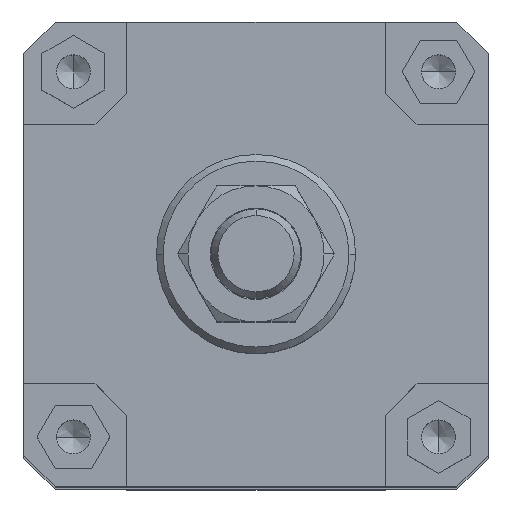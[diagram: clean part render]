
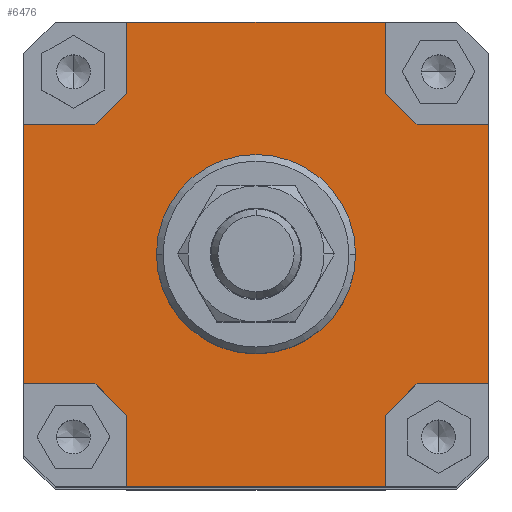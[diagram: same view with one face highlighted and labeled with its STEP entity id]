
A CAD part, top view. The second image highlights one B-rep face of the part: STEP entity #6476.
In plain terms, the highlighted planar face has unit normal (0, 0, 1).
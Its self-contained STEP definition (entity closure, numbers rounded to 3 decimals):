
#2320=CARTESIAN_POINT('',(-30.0,0.,280.0));
#2321=VERTEX_POINT('',#2320);
#2330=CARTESIAN_POINT('',(30.0,0.,280.0));
#2331=VERTEX_POINT('',#2330);
#2332=CARTESIAN_POINT('',(0.0,0.0,280.0));
#2333=DIRECTION('',(0.0,0.0,-1.0));
#2334=DIRECTION('',(-1.0,0.0,0.0));
#2335=AXIS2_PLACEMENT_3D('',#2332,#2333,#2334);
#2336=CIRCLE('',#2335,30.0);
#2337=EDGE_CURVE('',#2331,#2321,#2336,.T.);
#2557=CARTESIAN_POINT('',(0.0,0.0,280.0));
#2558=DIRECTION('',(0.0,0.0,-1.0));
#2559=DIRECTION('',(-1.0,0.0,0.0));
#2560=AXIS2_PLACEMENT_3D('',#2557,#2558,#2559);
#2561=CIRCLE('',#2560,30.0);
#2562=EDGE_CURVE('',#2321,#2331,#2561,.T.);
#2641=CARTESIAN_POINT('',(-39.,70.,280.0));
#2642=VERTEX_POINT('',#2641);
#2649=CARTESIAN_POINT('',(39.,70.,280.0));
#2650=VERTEX_POINT('',#2649);
#2651=CARTESIAN_POINT('',(-39.,70.,280.0));
#2652=DIRECTION('',(1.0,0.0,0.0));
#2653=VECTOR('',#2652,78.);
#2654=LINE('',#2651,#2653);
#2655=EDGE_CURVE('',#2642,#2650,#2654,.T.);
#3100=CARTESIAN_POINT('',(70.,39.,280.0));
#3101=VERTEX_POINT('',#3100);
#3108=CARTESIAN_POINT('',(70.,-39.0,280.0));
#3109=VERTEX_POINT('',#3108);
#3110=CARTESIAN_POINT('',(70.,39.,280.0));
#3111=DIRECTION('',(0.0,-1.0,0.0));
#3112=VECTOR('',#3111,78.);
#3113=LINE('',#3110,#3112);
#3114=EDGE_CURVE('',#3101,#3109,#3113,.T.);
#3181=CARTESIAN_POINT('',(-39.,-48.5,280.0));
#3182=VERTEX_POINT('',#3181);
#3189=CARTESIAN_POINT('',(-48.5,-39.,280.0));
#3190=VERTEX_POINT('',#3189);
#3191=CARTESIAN_POINT('',(-39.,-48.5,280.0));
#3192=DIRECTION('',(-0.707,0.707,0.0));
#3193=VECTOR('',#3192,13.435);
#3194=LINE('',#3191,#3193);
#3195=EDGE_CURVE('',#3182,#3190,#3194,.T.);
#3309=CARTESIAN_POINT('',(-70.,-39.,280.0));
#3310=VERTEX_POINT('',#3309);
#3311=CARTESIAN_POINT('',(-70.,-39.,280.0));
#3312=DIRECTION('',(1.0,0.0,0.0));
#3313=VECTOR('',#3312,21.5);
#3314=LINE('',#3311,#3313);
#3315=EDGE_CURVE('',#3310,#3190,#3314,.T.);
#3342=CARTESIAN_POINT('',(48.5,-39.,280.0));
#3343=VERTEX_POINT('',#3342);
#3350=CARTESIAN_POINT('',(39.,-48.5,280.0));
#3351=VERTEX_POINT('',#3350);
#3352=CARTESIAN_POINT('',(48.5,-39.,280.0));
#3353=DIRECTION('',(-0.707,-0.707,0.0));
#3354=VECTOR('',#3353,13.435);
#3355=LINE('',#3352,#3354);
#3356=EDGE_CURVE('',#3343,#3351,#3355,.T.);
#3454=CARTESIAN_POINT('',(39.,-70.,280.0));
#3455=VERTEX_POINT('',#3454);
#3456=CARTESIAN_POINT('',(39.,-70.,280.0));
#3457=DIRECTION('',(0.0,1.0,0.0));
#3458=VECTOR('',#3457,21.5);
#3459=LINE('',#3456,#3458);
#3460=EDGE_CURVE('',#3455,#3351,#3459,.T.);
#3487=CARTESIAN_POINT('',(39.,48.5,280.0));
#3488=VERTEX_POINT('',#3487);
#3495=CARTESIAN_POINT('',(48.5,39.,280.0));
#3496=VERTEX_POINT('',#3495);
#3497=CARTESIAN_POINT('',(39.,48.5,280.0));
#3498=DIRECTION('',(0.707,-0.707,0.0));
#3499=VECTOR('',#3498,13.435);
#3500=LINE('',#3497,#3499);
#3501=EDGE_CURVE('',#3488,#3496,#3500,.T.);
#3592=CARTESIAN_POINT('',(70.,39.,280.0));
#3593=DIRECTION('',(-1.0,0.0,0.0));
#3594=VECTOR('',#3593,21.5);
#3595=LINE('',#3592,#3594);
#3596=EDGE_CURVE('',#3101,#3496,#3595,.T.);
#3609=CARTESIAN_POINT('',(-48.5,39.,280.0));
#3610=VERTEX_POINT('',#3609);
#3617=CARTESIAN_POINT('',(-39.,48.5,280.0));
#3618=VERTEX_POINT('',#3617);
#3619=CARTESIAN_POINT('',(-48.5,39.,280.0));
#3620=DIRECTION('',(0.707,0.707,0.0));
#3621=VECTOR('',#3620,13.435);
#3622=LINE('',#3619,#3621);
#3623=EDGE_CURVE('',#3610,#3618,#3622,.T.);
#3640=CARTESIAN_POINT('',(-39.,70.,280.0));
#3641=DIRECTION('',(0.0,-1.0,0.0));
#3642=VECTOR('',#3641,21.5);
#3643=LINE('',#3640,#3642);
#3644=EDGE_CURVE('',#2642,#3618,#3643,.T.);
#4674=CARTESIAN_POINT('',(-70.,39.0,280.0));
#4675=VERTEX_POINT('',#4674);
#4676=CARTESIAN_POINT('',(-70.,-39.,280.0));
#4677=DIRECTION('',(0.0,1.0,0.0));
#4678=VECTOR('',#4677,78.0);
#4679=LINE('',#4676,#4678);
#4680=EDGE_CURVE('',#3310,#4675,#4679,.T.);
#6070=CARTESIAN_POINT('',(-48.5,39.,280.0));
#6071=DIRECTION('',(-1.0,0.0,0.0));
#6072=VECTOR('',#6071,21.5);
#6073=LINE('',#6070,#6072);
#6074=EDGE_CURVE('',#3610,#4675,#6073,.T.);
#6231=CARTESIAN_POINT('',(39.,48.5,280.0));
#6232=DIRECTION('',(0.0,1.0,0.0));
#6233=VECTOR('',#6232,21.5);
#6234=LINE('',#6231,#6233);
#6235=EDGE_CURVE('',#3488,#2650,#6234,.T.);
#6392=CARTESIAN_POINT('',(48.5,-39.,280.0));
#6393=DIRECTION('',(1.0,0.0,0.0));
#6394=VECTOR('',#6393,21.5);
#6395=LINE('',#6392,#6394);
#6396=EDGE_CURVE('',#3343,#3109,#6395,.T.);
#6437=CARTESIAN_POINT('',(0.,0.,280.0));
#6438=DIRECTION('',(0.0,0.0,1.0));
#6439=DIRECTION('',(1.0,0.0,0.0));
#6440=AXIS2_PLACEMENT_3D('',#6437,#6438,#6439);
#6441=PLANE('',#6440);
#6442=ORIENTED_EDGE('',*,*,#3644,.T.);
#6443=ORIENTED_EDGE('',*,*,#3623,.F.);
#6444=ORIENTED_EDGE('',*,*,#6074,.T.);
#6445=ORIENTED_EDGE('',*,*,#4680,.F.);
#6446=ORIENTED_EDGE('',*,*,#3315,.T.);
#6447=ORIENTED_EDGE('',*,*,#3195,.F.);
#6448=CARTESIAN_POINT('',(-39.,-70.,280.0));
#6449=VERTEX_POINT('',#6448);
#6450=CARTESIAN_POINT('',(-39.,-48.5,280.0));
#6451=DIRECTION('',(0.0,-1.0,0.0));
#6452=VECTOR('',#6451,21.5);
#6453=LINE('',#6450,#6452);
#6454=EDGE_CURVE('',#3182,#6449,#6453,.T.);
#6455=ORIENTED_EDGE('',*,*,#6454,.T.);
#6456=CARTESIAN_POINT('',(39.,-70.,280.0));
#6457=DIRECTION('',(-1.0,0.0,0.0));
#6458=VECTOR('',#6457,78.);
#6459=LINE('',#6456,#6458);
#6460=EDGE_CURVE('',#3455,#6449,#6459,.T.);
#6461=ORIENTED_EDGE('',*,*,#6460,.F.);
#6462=ORIENTED_EDGE('',*,*,#3460,.T.);
#6463=ORIENTED_EDGE('',*,*,#3356,.F.);
#6464=ORIENTED_EDGE('',*,*,#6396,.T.);
#6465=ORIENTED_EDGE('',*,*,#3114,.F.);
#6466=ORIENTED_EDGE('',*,*,#3596,.T.);
#6467=ORIENTED_EDGE('',*,*,#3501,.F.);
#6468=ORIENTED_EDGE('',*,*,#6235,.T.);
#6469=ORIENTED_EDGE('',*,*,#2655,.F.);
#6470=EDGE_LOOP('',(#6442,#6443,#6444,#6445,#6446,#6447,#6455,#6461,#6462,#6463,#6464,#6465,#6466,#6467,#6468,#6469));
#6471=FACE_OUTER_BOUND('',#6470,.T.);
#6472=ORIENTED_EDGE('',*,*,#2337,.T.);
#6473=ORIENTED_EDGE('',*,*,#2562,.T.);
#6474=EDGE_LOOP('',(#6472,#6473));
#6475=FACE_BOUND('',#6474,.T.);
#6476=ADVANCED_FACE('',(#6471,#6475),#6441,.T.);
